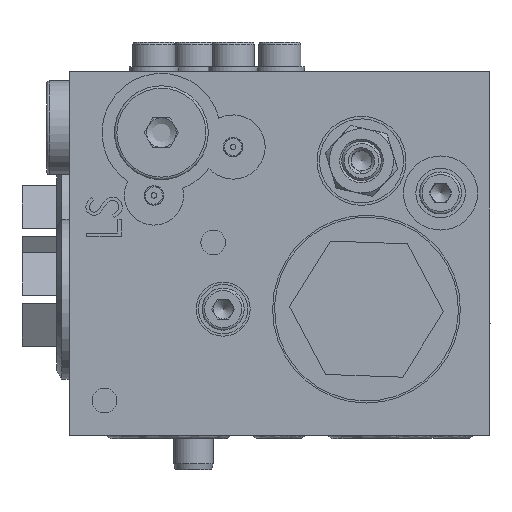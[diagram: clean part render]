
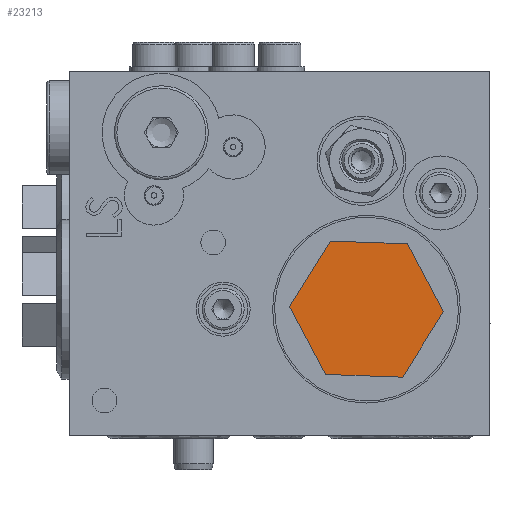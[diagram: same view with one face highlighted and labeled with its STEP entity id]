
A CAD part, left-side view. The second image highlights one B-rep face of the part: STEP entity #23213.
In plain terms, the highlighted planar face has unit normal (-1, 0, 0).
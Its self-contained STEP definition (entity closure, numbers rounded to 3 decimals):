
#385 = CARTESIAN_POINT ( 'NONE',  ( 0., -13.5, 7.794 ) ) ;
#418 = EDGE_CURVE ( 'NONE', #34076, #24430, #26859, .T. ) ;
#1205 = VECTOR ( 'NONE', #18129, 1000. ) ;
#1298 = DIRECTION ( 'NONE',  ( 1., 0., 0. ) ) ;
#1664 = CARTESIAN_POINT ( 'NONE',  ( 0., 13.5, 7.794 ) ) ;
#1750 = VECTOR ( 'NONE', #35644, 1000. ) ;
#2453 = CARTESIAN_POINT ( 'NONE',  ( 0., 13.5, 7.794 ) ) ;
#2543 = CARTESIAN_POINT ( 'NONE',  ( 0., -13.5, 7.794 ) ) ;
#2635 = ORIENTED_EDGE ( 'NONE', *, *, #21182, .T. ) ;
#2763 = CARTESIAN_POINT ( 'NONE',  ( 0., 0., -15.588 ) ) ;
#3049 = CARTESIAN_POINT ( 'NONE',  ( 0., -13.5, -7.794 ) ) ;
#3262 = VERTEX_POINT ( 'NONE', #3049 ) ;
#4847 = VECTOR ( 'NONE', #5497, 1000. ) ;
#4865 = ORIENTED_EDGE ( 'NONE', *, *, #418, .T. ) ;
#5497 = DIRECTION ( 'NONE',  ( 0., -0.866, -0.5 ) ) ;
#7299 = CARTESIAN_POINT ( 'NONE',  ( 0., 0., 15.588 ) ) ;
#8820 = ORIENTED_EDGE ( 'NONE', *, *, #32491, .T. ) ;
#9328 = CARTESIAN_POINT ( 'NONE',  ( 0., 0., -15.588 ) ) ;
#9510 = DIRECTION ( 'NONE',  ( 0., 0., -1. ) ) ;
#10224 = CARTESIAN_POINT ( 'NONE',  ( 0., 18.6, 0. ) ) ;
#10242 = EDGE_CURVE ( 'NONE', #22447, #3262, #25059, .T. ) ;
#10609 = DIRECTION ( 'NONE',  ( 0., 0., 1. ) ) ;
#10713 = CARTESIAN_POINT ( 'NONE',  ( 0., 0., 15.588 ) ) ;
#12614 = VECTOR ( 'NONE', #10609, 1000. ) ;
#13705 = EDGE_CURVE ( 'NONE', #35013, #22447, #33604, .T. ) ;
#14976 = EDGE_LOOP ( 'NONE', ( #23542, #4865, #2635, #21204, #33798, #8820 ) ) ;
#15373 = FACE_OUTER_BOUND ( 'NONE', #14976, .T. ) ;
#15657 = VERTEX_POINT ( 'NONE', #385 ) ;
#16445 = LINE ( 'NONE', #2543, #27188 ) ;
#16670 = LINE ( 'NONE', #27786, #12614 ) ;
#17385 = VECTOR ( 'NONE', #22336, 1000. ) ;
#18108 = CARTESIAN_POINT ( 'NONE',  ( 0., 13.5, -7.794 ) ) ;
#18129 = DIRECTION ( 'NONE',  ( 0., 0.866, -0.5 ) ) ;
#19216 = CARTESIAN_POINT ( 'NONE',  ( 0., 13.5, -7.794 ) ) ;
#21182 = EDGE_CURVE ( 'NONE', #24430, #35013, #27290, .T. ) ;
#21204 = ORIENTED_EDGE ( 'NONE', *, *, #13705, .T. ) ;
#22336 = DIRECTION ( 'NONE',  ( 0., -0.866, 0.5 ) ) ;
#22447 = VERTEX_POINT ( 'NONE', #9328 ) ;
#23213 = ADVANCED_FACE ( 'NONE', ( #15373 ), #35226, .F. ) ;
#23542 = ORIENTED_EDGE ( 'NONE', *, *, #32665, .T. ) ;
#24430 = VERTEX_POINT ( 'NONE', #1664 ) ;
#25059 = LINE ( 'NONE', #2763, #17385 ) ;
#26859 = LINE ( 'NONE', #7299, #1205 ) ;
#27188 = VECTOR ( 'NONE', #35550, 1000. ) ;
#27290 = LINE ( 'NONE', #2453, #1750 ) ;
#27786 = CARTESIAN_POINT ( 'NONE',  ( 0., -13.5, -7.794 ) ) ;
#32491 = EDGE_CURVE ( 'NONE', #3262, #15657, #16670, .T. ) ;
#32665 = EDGE_CURVE ( 'NONE', #15657, #34076, #16445, .T. ) ;
#33604 = LINE ( 'NONE', #19216, #4847 ) ;
#33798 = ORIENTED_EDGE ( 'NONE', *, *, #10242, .T. ) ;
#34076 = VERTEX_POINT ( 'NONE', #10713 ) ;
#35013 = VERTEX_POINT ( 'NONE', #18108 ) ;
#35226 = PLANE ( 'NONE',  #35534 ) ;
#35534 = AXIS2_PLACEMENT_3D ( 'NONE', #10224, #1298, #9510 ) ;
#35550 = DIRECTION ( 'NONE',  ( 0., 0.866, 0.5 ) ) ;
#35644 = DIRECTION ( 'NONE',  ( 0., 0., -1. ) ) ;
